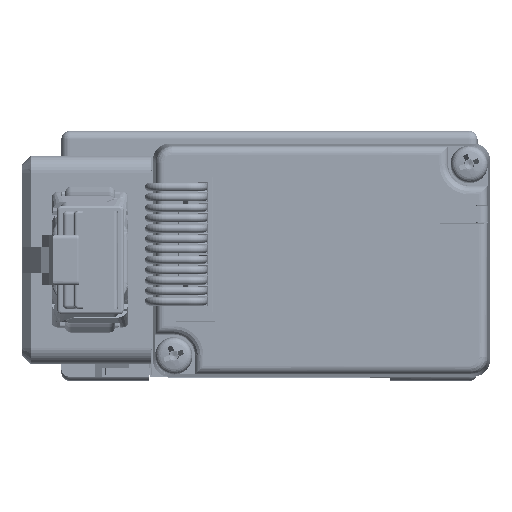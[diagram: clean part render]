
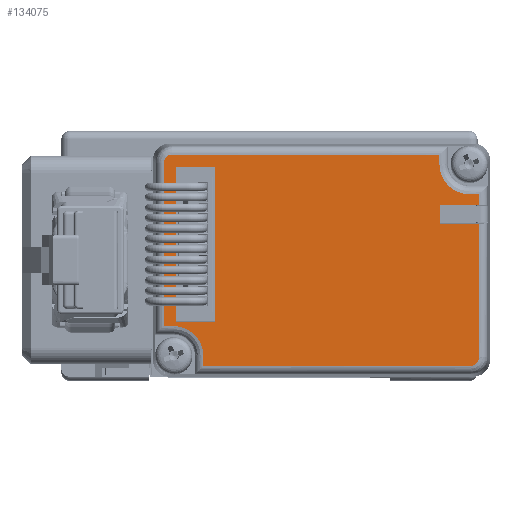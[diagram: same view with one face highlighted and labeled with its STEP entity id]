
A CAD part, front view. The second image highlights one B-rep face of the part: STEP entity #134075.
In plain terms, the highlighted planar face has unit normal (0, -1, 0) as drawn and (1, 0, 0) by its records, which use the part's own axes.
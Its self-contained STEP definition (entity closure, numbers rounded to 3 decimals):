
#1083=(
BOUNDED_CURVE()
B_SPLINE_CURVE(3,(#259712,#259713,#259714,#259715),.UNSPECIFIED.,.F.,.F.)
B_SPLINE_CURVE_WITH_KNOTS((4,4),(2.357,3.927),
 .UNSPECIFIED.)
CURVE()
GEOMETRIC_REPRESENTATION_ITEM()
RATIONAL_B_SPLINE_CURVE((1.,0.805,0.805,1.))
REPRESENTATION_ITEM('')
);
#1084=(
BOUNDED_CURVE()
B_SPLINE_CURVE(3,(#259821,#259822,#259823,#259824),.UNSPECIFIED.,.F.,.F.)
B_SPLINE_CURVE_WITH_KNOTS((4,4),(2.357,3.927),
 .UNSPECIFIED.)
CURVE()
GEOMETRIC_REPRESENTATION_ITEM()
RATIONAL_B_SPLINE_CURVE((1.,0.805,0.805,1.))
REPRESENTATION_ITEM('')
);
#3332=CIRCLE('',#173609,1.);
#3337=CIRCLE('',#173620,1.);
#3345=CIRCLE('',#173684,1.);
#28110=ORIENTED_EDGE('',*,*,#56465,.F.);
#28111=ORIENTED_EDGE('',*,*,#56462,.F.);
#28112=ORIENTED_EDGE('',*,*,#56459,.F.);
#28113=ORIENTED_EDGE('',*,*,#56456,.F.);
#28114=ORIENTED_EDGE('',*,*,#56314,.T.);
#28115=ORIENTED_EDGE('',*,*,#56311,.T.);
#28116=ORIENTED_EDGE('',*,*,#56443,.F.);
#28117=ORIENTED_EDGE('',*,*,#56453,.F.);
#28118=ORIENTED_EDGE('',*,*,#56449,.F.);
#28119=ORIENTED_EDGE('',*,*,#56348,.T.);
#28120=ORIENTED_EDGE('',*,*,#56345,.T.);
#28121=ORIENTED_EDGE('',*,*,#56342,.T.);
#28122=ORIENTED_EDGE('',*,*,#56339,.T.);
#28123=ORIENTED_EDGE('',*,*,#56336,.T.);
#28124=ORIENTED_EDGE('',*,*,#56512,.T.);
#28125=ORIENTED_EDGE('',*,*,#56332,.T.);
#28126=ORIENTED_EDGE('',*,*,#56329,.T.);
#28127=ORIENTED_EDGE('',*,*,#56326,.T.);
#28128=ORIENTED_EDGE('',*,*,#56323,.T.);
#28129=ORIENTED_EDGE('',*,*,#56320,.T.);
#28130=ORIENTED_EDGE('',*,*,#56317,.T.);
#56311=EDGE_CURVE('',#72276,#72279,#86986,.T.);
#56314=EDGE_CURVE('',#72280,#72276,#3332,.T.);
#56317=EDGE_CURVE('',#72282,#72280,#86988,.T.);
#56320=EDGE_CURVE('',#72284,#72282,#86990,.T.);
#56323=EDGE_CURVE('',#72286,#72284,#1083,.T.);
#56326=EDGE_CURVE('',#72288,#72286,#86992,.T.);
#56329=EDGE_CURVE('',#72290,#72288,#86994,.T.);
#56332=EDGE_CURVE('',#72293,#72290,#3337,.T.);
#56336=EDGE_CURVE('',#72294,#72297,#86996,.T.);
#56339=EDGE_CURVE('',#72298,#72294,#86998,.T.);
#56342=EDGE_CURVE('',#72300,#72298,#1084,.T.);
#56345=EDGE_CURVE('',#72302,#72300,#87000,.T.);
#56348=EDGE_CURVE('',#72305,#72302,#87002,.T.);
#56443=EDGE_CURVE('',#72380,#72279,#87074,.T.);
#56449=EDGE_CURVE('',#72305,#72383,#87080,.T.);
#56453=EDGE_CURVE('',#72383,#72380,#87084,.T.);
#56456=EDGE_CURVE('',#72387,#72388,#87087,.T.);
#56459=EDGE_CURVE('',#72388,#72390,#87090,.T.);
#56462=EDGE_CURVE('',#72390,#72392,#87093,.T.);
#56465=EDGE_CURVE('',#72392,#72387,#87096,.T.);
#56512=EDGE_CURVE('',#72297,#72293,#3345,.T.);
#72276=VERTEX_POINT('',#259600);
#72279=VERTEX_POINT('',#259608);
#72280=VERTEX_POINT('',#259647);
#72282=VERTEX_POINT('',#259656);
#72284=VERTEX_POINT('',#259662);
#72286=VERTEX_POINT('',#259703);
#72288=VERTEX_POINT('',#259718);
#72290=VERTEX_POINT('',#259724);
#72293=VERTEX_POINT('',#259754);
#72294=VERTEX_POINT('',#259762);
#72297=VERTEX_POINT('',#259767);
#72298=VERTEX_POINT('',#259771);
#72300=VERTEX_POINT('',#259812);
#72302=VERTEX_POINT('',#259827);
#72305=VERTEX_POINT('',#259837);
#72380=VERTEX_POINT('',#260101);
#72383=VERTEX_POINT('',#260111);
#72387=VERTEX_POINT('',#260123);
#72388=VERTEX_POINT('',#260125);
#72390=VERTEX_POINT('',#260131);
#72392=VERTEX_POINT('',#260137);
#86986=LINE('',#259609,#102624);
#86988=LINE('',#259659,#102626);
#86990=LINE('',#259665,#102628);
#86992=LINE('',#259721,#102630);
#86994=LINE('',#259727,#102632);
#86996=LINE('',#259768,#102634);
#86998=LINE('',#259774,#102636);
#87000=LINE('',#259830,#102638);
#87002=LINE('',#259839,#102640);
#87074=LINE('',#260100,#102712);
#87080=LINE('',#260110,#102718);
#87084=LINE('',#260118,#102722);
#87087=LINE('',#260124,#102725);
#87090=LINE('',#260130,#102728);
#87093=LINE('',#260136,#102731);
#87096=LINE('',#260142,#102734);
#102624=VECTOR('',#196622,1000.);
#102626=VECTOR('',#196632,1000.);
#102628=VECTOR('',#196638,1000.);
#102630=VECTOR('',#196646,1000.);
#102632=VECTOR('',#196652,1000.);
#102634=VECTOR('',#196664,1000.);
#102636=VECTOR('',#196670,1000.);
#102638=VECTOR('',#196678,1000.);
#102640=VECTOR('',#196682,1000.);
#102712=VECTOR('',#196816,1000.);
#102718=VECTOR('',#196824,1000.);
#102722=VECTOR('',#196830,1000.);
#102725=VECTOR('',#196835,1000.);
#102728=VECTOR('',#196840,1000.);
#102731=VECTOR('',#196845,1000.);
#102734=VECTOR('',#196850,1000.);
#113571=EDGE_LOOP('',(#28110,#28111,#28112,#28113));
#113572=EDGE_LOOP('',(#28114,#28115,#28116,#28117,#28118,#28119,#28120,
#28121,#28122,#28123,#28124,#28125,#28126,#28127,#28128,#28129,#28130));
#121372=FACE_BOUND('',#113571,.T.);
#121373=FACE_BOUND('',#113572,.T.);
#127973=PLANE('',#173683);
#134075=ADVANCED_FACE('',(#121372,#121373),#127973,.T.);
#173609=AXIS2_PLACEMENT_3D('',#259653,#196625,#196626);
#173620=AXIS2_PLACEMENT_3D('',#259759,#196655,#196656);
#173683=AXIS2_PLACEMENT_3D('',#260224,#196927,#196928);
#173684=AXIS2_PLACEMENT_3D('',#260225,#196929,#196930);
#196622=DIRECTION('',(0.,0.,1.));
#196625=DIRECTION('',(1.,0.,0.));
#196626=DIRECTION('',(0.,0.,-1.));
#196632=DIRECTION('',(0.,1.,0.));
#196638=DIRECTION('',(0.,0.,-1.));
#196646=DIRECTION('',(0.,1.,0.));
#196652=DIRECTION('',(0.,0.,-1.));
#196655=DIRECTION('',(1.,0.,0.));
#196656=DIRECTION('',(0.,-0.707,0.707));
#196664=DIRECTION('',(0.,-1.,0.));
#196670=DIRECTION('',(0.,0.,1.));
#196678=DIRECTION('',(0.,-1.,0.));
#196682=DIRECTION('',(0.,0.,1.));
#196816=DIRECTION('',(0.,1.,0.));
#196824=DIRECTION('',(0.,-1.,0.));
#196830=DIRECTION('',(0.,0.,-1.));
#196835=DIRECTION('',(0.,0.,-1.));
#196840=DIRECTION('',(0.,1.,0.));
#196845=DIRECTION('',(0.,0.,1.));
#196850=DIRECTION('',(0.,-1.,0.));
#196927=DIRECTION('',(1.,0.,0.));
#196928=DIRECTION('',(0.,0.,-1.));
#196929=DIRECTION('',(1.,0.,0.));
#196930=DIRECTION('',(0.,0.,1.));
#259600=CARTESIAN_POINT('',(13.,39.185,-25.686));
#259608=CARTESIAN_POINT('',(13.,39.185,-9.6));
#259609=CARTESIAN_POINT('',(13.,39.185,-9.6));
#259647=CARTESIAN_POINT('',(13.,38.186,-26.685));
#259653=CARTESIAN_POINT('',(13.,38.186,-25.686));
#259656=CARTESIAN_POINT('',(13.,6.074,-26.685));
#259659=CARTESIAN_POINT('',(13.,38.16,-26.685));
#259662=CARTESIAN_POINT('',(13.,6.074,-25.525));
#259665=CARTESIAN_POINT('',(13.,6.074,-27.66));
#259703=CARTESIAN_POINT('',(13.,2.475,-21.926));
#259712=CARTESIAN_POINT('',(13.,2.475,-21.926));
#259713=CARTESIAN_POINT('',(13.,4.584,-21.926));
#259714=CARTESIAN_POINT('',(13.,6.074,-23.416));
#259715=CARTESIAN_POINT('',(13.,6.074,-25.525));
#259718=CARTESIAN_POINT('',(13.,1.315,-21.926));
#259721=CARTESIAN_POINT('',(13.,2.501,-21.926));
#259724=CARTESIAN_POINT('',(13.,1.315,-2.314));
#259727=CARTESIAN_POINT('',(13.,1.315,-22.9));
#259754=CARTESIAN_POINT('',(13.,1.607,-1.607));
#259759=CARTESIAN_POINT('',(13.,2.314,-2.314));
#259762=CARTESIAN_POINT('',(13.,34.426,-1.315));
#259767=CARTESIAN_POINT('',(13.,2.314,-1.315));
#259768=CARTESIAN_POINT('',(13.,0.,-1.315));
#259771=CARTESIAN_POINT('',(13.,34.426,-2.475));
#259774=CARTESIAN_POINT('',(13.,34.426,-0.34));
#259812=CARTESIAN_POINT('',(13.,38.025,-6.074));
#259821=CARTESIAN_POINT('',(13.,38.025,-6.074));
#259822=CARTESIAN_POINT('',(13.,35.916,-6.074));
#259823=CARTESIAN_POINT('',(13.,34.426,-4.584));
#259824=CARTESIAN_POINT('',(13.,34.426,-2.475));
#259827=CARTESIAN_POINT('',(13.,39.185,-6.074));
#259830=CARTESIAN_POINT('',(13.,37.999,-6.074));
#259837=CARTESIAN_POINT('',(13.,39.185,-7.4));
#259839=CARTESIAN_POINT('',(13.,39.185,-5.1));
#260100=CARTESIAN_POINT('',(13.,40.5,-9.6));
#260101=CARTESIAN_POINT('',(13.,34.5,-9.6));
#260110=CARTESIAN_POINT('',(13.,40.5,-7.4));
#260111=CARTESIAN_POINT('',(13.,34.5,-7.4));
#260118=CARTESIAN_POINT('',(13.,34.5,-7.4));
#260123=CARTESIAN_POINT('',(13.,2.8,-2.8));
#260124=CARTESIAN_POINT('',(13.,2.8,-2.8));
#260125=CARTESIAN_POINT('',(13.,2.8,-21.4));
#260130=CARTESIAN_POINT('',(13.,7.5,-21.4));
#260131=CARTESIAN_POINT('',(13.,7.5,-21.4));
#260136=CARTESIAN_POINT('',(13.,7.5,-2.8));
#260137=CARTESIAN_POINT('',(13.,7.5,-2.8));
#260142=CARTESIAN_POINT('',(13.,7.5,-2.8));
#260224=CARTESIAN_POINT('',(13.,0.,0.));
#260225=CARTESIAN_POINT('',(13.,2.314,-2.314));
